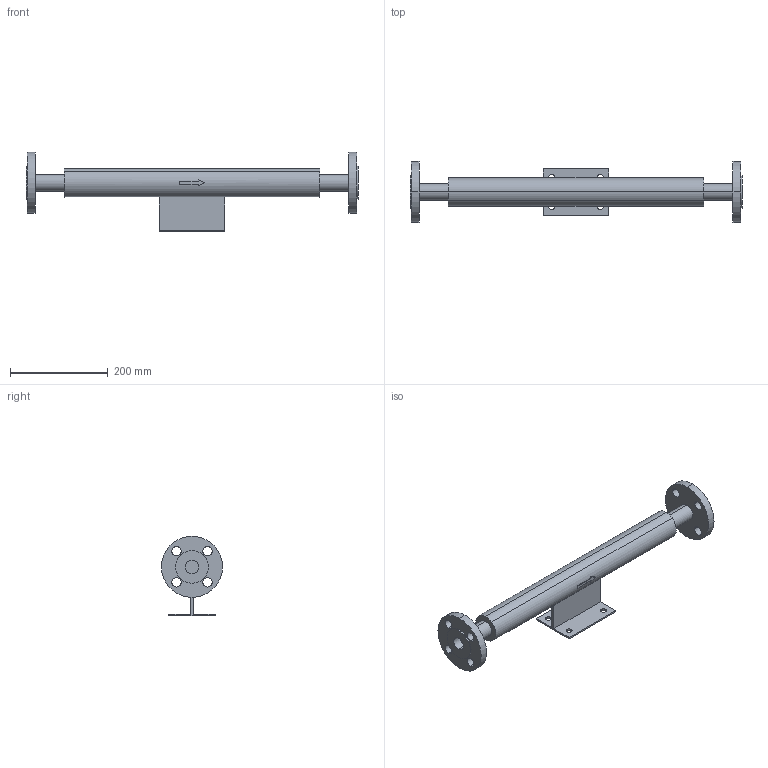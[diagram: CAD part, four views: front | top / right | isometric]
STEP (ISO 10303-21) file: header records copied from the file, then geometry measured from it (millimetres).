
FILE_DESCRIPTION( (''), '2;1');
FILE_NAME ('PC1027.9516.EB-12_25A_23582.stp','2025-07-30T08:47:36',(''),(''),'spGate 20.6.3 (****-****-****-****)','','');
FILE_SCHEMA (('AUTOMOTIVE_DESIGN'));
Length unit declared in the file: millimetre
Bounding box: 680 x 125 x 162.5 mm (x, y, z)
Volume: 1951570.9 mm3; surface area: 223732.3 mm2
Topology: 1 solids, 1 shells, 77 faces, 202 edges, 138 vertices
Faces by surface type: cylinder 42, plane 35
Entity records: 4041 total; most frequent: CARTESIAN_POINT 467, DIRECTION 412, ORIENTED_EDGE 404, COLOUR_RGB 280, PRESENTATION_STYLE_ASSIGNMENT 280, STYLED_ITEM 280, EDGE_CURVE 202, DRAUGHTING_PRE_DEFINED_CURVE_FONT 202
